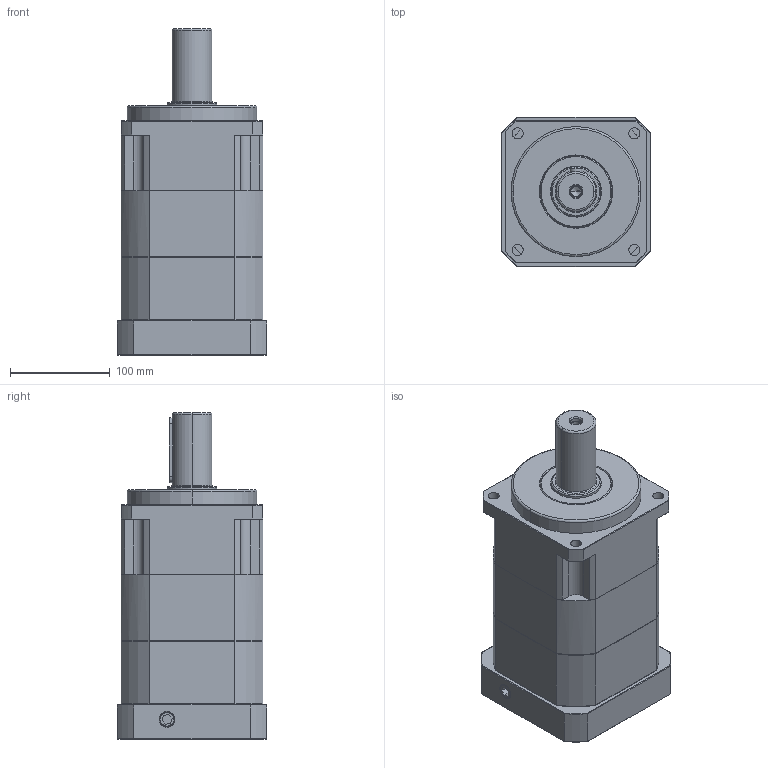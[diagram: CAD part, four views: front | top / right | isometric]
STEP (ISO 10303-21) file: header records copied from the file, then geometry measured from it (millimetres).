
FILE_DESCRIPTION (( 'STEP AP203' ), '1' );
FILE_NAME ('SB142A-2-130M10-K.step', '2022-05-30T08:48:26', ( '' ), ( '' ), 'SwSTEP 2.0', 'SolidWorks 2021', '' );
FILE_SCHEMA (( 'CONFIG_CONTROL_DESIGN' ));
Length unit declared in the file: millimetre
Products named in the file (1): SB142A-2-130M10-K
Bounding box: 150 x 150 x 327 mm (x, y, z)
Volume: 3872399.6 mm3; surface area: 324771.2 mm2
Topology: 2 solids, 7 shells, 827 faces, 1986 edges, 1195 vertices
Faces by surface type: cylinder 269, plane 251, cone 178, torus 105, sphere 16, bspline 8
Entity records: 24698 total; most frequent: CARTESIAN_POINT 5113, DIRECTION 4455, ORIENTED_EDGE 3880, EDGE_CURVE 1940, AXIS2_PLACEMENT_3D 1833, VERTEX_POINT 1187, CIRCLE 1013, EDGE_LOOP 915
